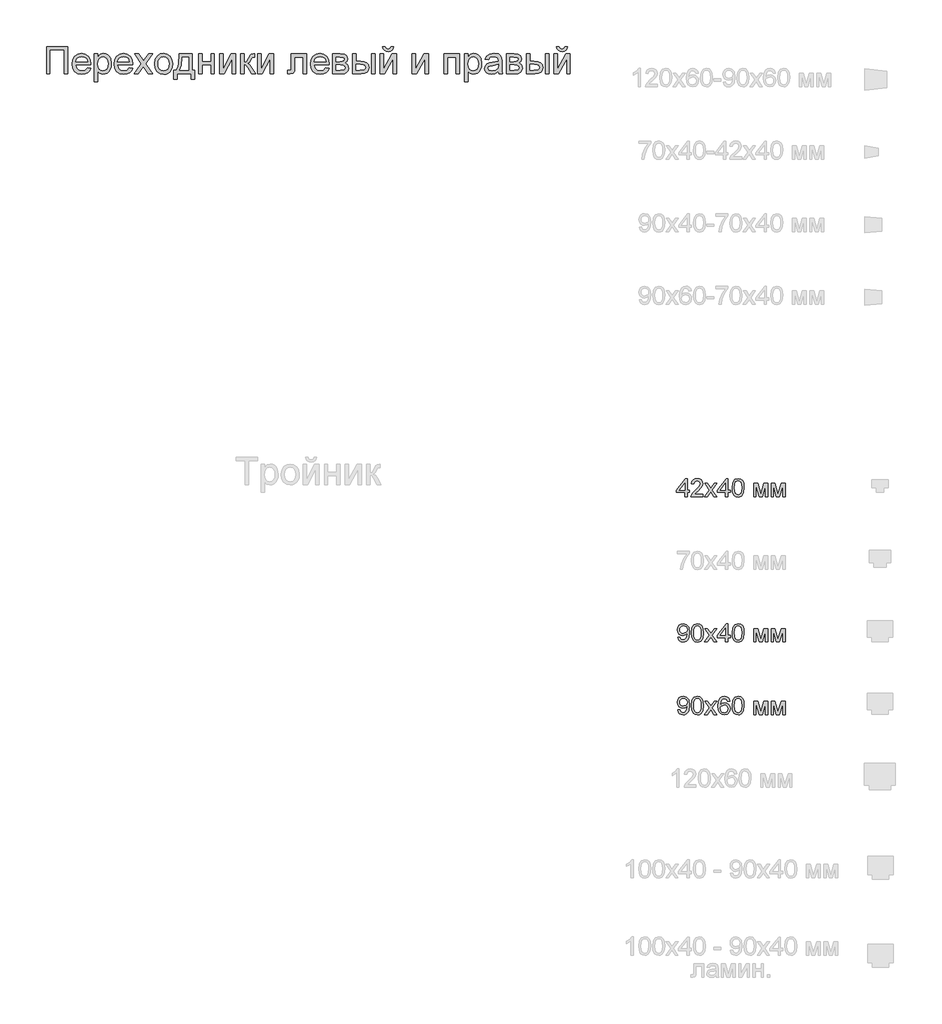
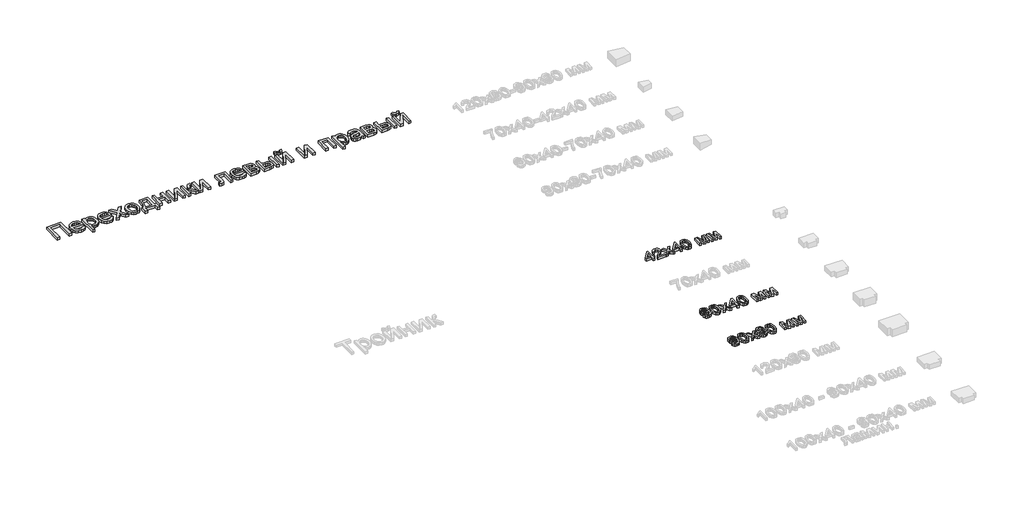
# One storey, part 16 of 21: 4 proxies.
"""IFC4 building model written with IfcOpenShell, lengths in millimetres."""

import ifcopenshell
import ifcopenshell.guid

model = None  # the IFC model being written
_history = None  # IfcOwnerHistory: only IFC2X3 demands one
_inside = {}  # id of a spatial element -> (the spatial element, [elements in it])
_under = {}  # id of a project, library or spatial element -> (it, [spatial elements below it])
_declared = {}  # id of a project -> (the project, [libraries it declares])
_typed = {}  # id of a type object -> (the type object, [elements of that type])
_made_of = {}  # id of a material, layer set ... -> (it, [elements and type objects made of it])


def new_model(schema):
    """Start an empty IFC model of exactly this schema.

    Asked for "IFC4X3", IfcOpenShell would pick the latest addendum, in which some entities
    have other attributes; the version numbers below select the first issue.
    IFC2X3 requires an IfcOwnerHistory on every rooted entity: one is made here for all.
    """
    global model, _history
    if schema == "IFC4X3":
        model = ifcopenshell.file(schema_version=(4, 3, 0, 0))
    else:
        model = ifcopenshell.file(schema=schema)
    _inside.clear()
    _under.clear()
    _declared.clear()
    _typed.clear()
    _made_of.clear()
    _history = None
    if model.schema == "IFC2X3":
        org = make("IfcOrganization", Name="unknown")
        user = make(
            "IfcPersonAndOrganization",
            ThePerson=make("IfcPerson", FamilyName="unknown"),
            TheOrganization=org,
        )
        app = make(
            "IfcApplication",
            ApplicationDeveloper=org,
            Version="unknown",
            ApplicationFullName="unknown",
            ApplicationIdentifier="unknown",
        )
        _history = make(
            "IfcOwnerHistory",
            OwningUser=user,
            OwningApplication=app,
            ChangeAction="ADDED",
            CreationDate=0,
        )
    return model


def make(cls, **values):
    """One entity of the class cls with the attributes given. An attribute that is None is left unset."""
    return model.create_entity(
        cls, **{name: value for name, value in values.items() if value is not None}
    )


def rooted(cls, **values):
    """An entity with a GlobalId (a new one), such as an element, a storey or a relation."""
    return make(cls, GlobalId=ifcopenshell.guid.new(), OwnerHistory=_history, **values)


def si_unit(unit_type, name, prefix=None):
    """IfcSIUnit, for example si_unit("LENGTHUNIT", "METRE", prefix="MILLI")."""
    return make("IfcSIUnit", UnitType=unit_type, Prefix=prefix, Name=name)


def assignment(units):
    """IfcUnitAssignment: the units of a project."""
    return None if units is None else make("IfcUnitAssignment", Units=units)


def point(xyz):
    """IfcCartesianPoint."""
    return None if xyz is None else make("IfcCartesianPoint", Coordinates=xyz)


def direction(xyz):
    """IfcDirection."""
    return None if xyz is None else make("IfcDirection", DirectionRatios=xyz)


def frame(location, z_axis=None, x_axis=None):
    """IfcAxis2Placement3D, a coordinate frame: its origin and axes. An axis left out is left unset."""
    return make(
        "IfcAxis2Placement3D",
        Location=point(location),
        Axis=direction(z_axis),
        RefDirection=direction(x_axis),
    )


def origin():
    """The frame at (0, 0, 0) with its axes left unset."""
    return frame((0.0, 0.0, 0.0))


def origin_with_axes():
    """The frame at (0, 0, 0) with the z axis (0, 0, 1) and the x axis (1, 0, 0) written out."""
    return frame((0.0, 0.0, 0.0), z_axis=(0.0, 0.0, 1.0), x_axis=(1.0, 0.0, 0.0))


def place(relative_to, where):
    """IfcLocalPlacement: puts the frame where relative to a parent placement (None: the world)."""
    return make(
        "IfcLocalPlacement", PlacementRelTo=relative_to, RelativePlacement=where
    )


def context(
    kind, dimensions, precision=None, world=None, true_north=None, identifier=None
):
    """IfcGeometricRepresentationContext, for example the 3D "Model" context."""
    return make(
        "IfcGeometricRepresentationContext",
        ContextIdentifier=identifier,
        ContextType=kind,
        CoordinateSpaceDimension=dimensions,
        Precision=precision,
        WorldCoordinateSystem=world,
        TrueNorth=true_north,
    )


def project(units=None, contexts=None):
    """IfcProject with its units and contexts."""
    return rooted(
        "IfcProject",
        Name="project",
        RepresentationContexts=contexts,
        UnitsInContext=assignment(units),
    )


def spatial(cls, under=None, at=None, **own):
    """A site, building, storey or space (cls), placed at a placement, below another one or the project."""
    s = rooted(cls, ObjectPlacement=at, **own)
    if under is not None:
        _under.setdefault(under.id(), (under, []))[1].append(s)
    return s


def polyline(points):
    """IfcPolyline through the points."""
    return make("IfcPolyline", Points=[point(p) for p in points])


def outline(outer, holes=None, kind="AREA"):
    """IfcArbitraryClosedProfileDef: a profile drawn as a closed curve; with holes, ...WithVoids."""
    if holes is None:
        return make("IfcArbitraryClosedProfileDef", ProfileType=kind, OuterCurve=outer)
    return make(
        "IfcArbitraryProfileDefWithVoids",
        ProfileType=kind,
        OuterCurve=outer,
        InnerCurves=holes,
    )


def extrude(swept, where, along, depth):
    """IfcExtrudedAreaSolid: the profile swept, set in the frame where, extruded along a direction by depth."""
    return make(
        "IfcExtrudedAreaSolid",
        SweptArea=swept,
        Position=where,
        ExtrudedDirection=direction(along),
        Depth=depth,
    )


def shape(context_of_items, identifier, shape_type, items):
    """IfcShapeRepresentation: the items that make up one representation, for example the "Body"."""
    return make(
        "IfcShapeRepresentation",
        ContextOfItems=context_of_items,
        RepresentationIdentifier=identifier,
        RepresentationType=shape_type,
        Items=items,
    )


def made_of(thing, what):
    """Note that an element or type object is made of a material, layer set ...; save() writes the relation."""
    if what is not None:
        _made_of.setdefault(what.id(), (what, []))[1].append(thing)
    return thing


def element(
    cls,
    number,
    at=None,
    inside=None,
    cuts=None,
    type_object=None,
    material=None,
    context=None,
    identifier="Body",
    shape_type=None,
    held_by="IfcProductDefinitionShape",
    body=None,
    shapes=None,
    **own,
):
    """One element of the class cls, such as IfcWall. Its Tag is "e" and its number.

    at: its placement. inside: the storey or other place that contains it. cuts: it is an
    opening in that element (IfcRelVoidsElement). A single representation is given by context,
    identifier, shape_type and body (its items); several are given by shapes. held_by: the class
    of the entity that holds the representations. save() writes the other relations.
    """
    e = rooted(cls, Tag="e%d" % number, ObjectPlacement=at, **own)
    if body is not None:
        shapes = [shape(context, identifier, shape_type, body)]
    if shapes is not None:
        e.Representation = make(held_by, Representations=shapes)
    if inside is not None:
        _inside.setdefault(inside.id(), (inside, []))[1].append(e)
    if cuts is not None:
        rooted(
            "IfcRelVoidsElement", RelatingBuildingElement=cuts, RelatedOpeningElement=e
        )
    if type_object is not None:
        _typed.setdefault(type_object.id(), (type_object, []))[1].append(e)
    return made_of(e, material)


def aggregate(whole, parts):
    """IfcRelAggregates: a whole, such as a stair, and the parts it consists of."""
    return rooted("IfcRelAggregates", RelatingObject=whole, RelatedObjects=parts)


def save(model, path):
    """Write the relations noted so far, then the file.

    IfcRelAggregates (storeys below a building ...), IfcRelContainedInSpatialStructure (elements
    in a storey), IfcRelDefinesByType, IfcRelAssociatesMaterial and IfcRelDeclares: one each for
    every whole, place, type object, material and project.
    """
    for whole, parts in _under.values():
        aggregate(whole, parts)
    for where, things in _inside.values():
        rooted(
            "IfcRelContainedInSpatialStructure",
            RelatedElements=things,
            RelatingStructure=where,
        )
    for kind, things in _typed.values():
        rooted("IfcRelDefinesByType", RelatedObjects=things, RelatingType=kind)
    for what, things in _made_of.values():
        rooted("IfcRelAssociatesMaterial", RelatedObjects=things, RelatingMaterial=what)
    for by, libraries in _declared.values():
        rooted("IfcRelDeclares", RelatingContext=by, RelatedDefinitions=libraries)
    model.write(path)


model = new_model("IFC4")

# Units and contexts
model_context = context("Model", 3, world=origin())
ifc_project = project(units=[si_unit("LENGTHUNIT", "METRE", prefix="MILLI")], contexts=[model_context])

# Site, building, storey
site = spatial("IfcSite", under=ifc_project)
building = spatial("IfcBuilding", under=site)
storey = spatial("IfcBuildingStorey", under=building, Name="Этаж 01", Elevation=0.0)

# Proxies
placement = place(None, origin())
element("IfcBuildingElementProxy", 1, Name="150 мм Arial", ObjectType="150 мм Arial", at=placement, inside=storey, context=model_context, shape_type="SweptSolid", body=[
    extrude(outline(polyline([(19329.8196803, -2314.3954219), (19447.5419188, -2314.3954219), (19447.5419188, -2465.0798871), (19428.7063606, -2465.0798871), (19428.7063606, -2333.23098), (19348.6552385, -2333.23098), (19348.6552385, -2465.0798871), (19329.8196803, -2465.0798871), (19329.8196803, -2314.3954219)])), origin_with_axes(), (0.0, 0.0, 1.0), 20.0),
    extrude(outline(polyline([(19555.625649, -2432.1176603), (19574.0933251, -2434.4721051), (19567.4392595, -2448.3872415), (19556.8212655, -2458.789105), (19542.4784662, -2465.2730251), (19524.649985, -2467.4343319), (19502.5494741, -2463.7049281), (19485.5441289, -2452.5167169), (19474.7008071, -2434.5962653), (19471.0863665, -2410.67014), (19474.7375953, -2385.9392729), (19485.6912817, -2367.4440056), (19502.4667007, -2355.910905), (19523.5831272, -2352.0665382), (19544.0419647, -2355.901708), (19560.3897208, -2367.4072174), (19571.1088824, -2385.8656965), (19574.6819363, -2410.5597754), (19574.5715717, -2415.6365469), (19489.9219246, -2415.6365469), (19493.1822788, -2429.7356244), (19500.7560494, -2440.1006996), (19511.6867432, -2446.4742552), (19525.017867, -2448.5987737), (19543.4855431, -2444.6624363), (19555.625649, -2432.1176603)]), holes=[polyline([(19489.9219246, -2396.8009888), (19555.8463782, -2396.8009888), (19553.2987954, -2386.8497808), (19548.3047973, -2379.7312642), (19537.3235197, -2373.1093883), (19523.5095508, -2370.9020963), (19510.8130234, -2372.6633314), (19500.314591, -2377.9470365), (19493.0167319, -2386.1829947), (19489.9219246, -2396.8009888)])]), origin_with_axes(), (0.0, 0.0, 1.0), 20.0),
    extrude(outline(polyline([(19593.5174945, -2507.4598929), (19593.5174945, -2354.4209829), (19612.3530526, -2354.4209829), (19612.3530526, -2372.8886591), (19625.3760753, -2357.2720684), (19642.9608346, -2352.0665382), (19655.6987487, -2353.887554), (19666.8363761, -2359.3506017), (19675.9046673, -2368.1245873), (19682.4345727, -2379.878417), (19687.6952852, -2408.9043064), (19686.2099617, -2425.0129393), (19681.753991, -2439.4201179), (19674.4699275, -2451.3946769), (19664.5003255, -2460.2054506), (19652.88905, -2465.6271115), (19640.6799663, -2467.4343319), (19624.2908234, -2462.5966836), (19612.3530526, -2450.3646073), (19612.3530526, -2507.4598929), (19593.5174945, -2507.4598929)]), holes=[polyline([(19612.3530526, -2410.6333518), (19614.3901992, -2427.5191354), (19620.5016388, -2439.3281474), (19629.5193462, -2446.2811171), (19640.2752961, -2448.5987737), (19651.2059898, -2446.1983437), (19660.4536235, -2438.9970536), (19666.7582012, -2426.7557802), (19668.8597271, -2409.2354002), (19666.808785, -2392.4415871), (19660.6559586, -2380.4670282), (19651.6520468, -2373.2933293), (19641.0478483, -2370.9020963), (19630.402263, -2373.4450806), (19621.0534618, -2381.0740335), (19614.5281549, -2393.5498316), (19612.3530526, -2410.6333518)])]), origin_with_axes(), (0.0, 0.0, 1.0), 20.0),
    extrude(outline(polyline([(19786.3612364, -2432.1176603), (19804.8289125, -2434.4721051), (19798.1748469, -2448.3872415), (19787.5568528, -2458.789105), (19773.2140536, -2465.2730251), (19755.3855724, -2467.4343319), (19733.2850615, -2463.7049281), (19716.2797163, -2452.5167169), (19705.4363945, -2434.5962653), (19701.8219539, -2410.67014), (19705.4731827, -2385.9392729), (19716.4268691, -2367.4440056), (19733.202288, -2355.910905), (19754.3187146, -2352.0665382), (19774.777552, -2355.901708), (19791.1253082, -2367.4072174), (19801.8444698, -2385.8656965), (19805.4175237, -2410.5597754), (19805.3071591, -2415.6365469), (19720.657512, -2415.6365469), (19723.9178662, -2429.7356244), (19731.4916368, -2440.1006996), (19742.4223306, -2446.4742552), (19755.7534544, -2448.5987737), (19774.2211305, -2444.6624363), (19786.3612364, -2432.1176603)]), holes=[polyline([(19720.657512, -2396.8009888), (19786.5819655, -2396.8009888), (19784.0343827, -2386.8497808), (19779.0403846, -2379.7312642), (19768.0591071, -2373.1093883), (19754.2451382, -2370.9020963), (19741.5486108, -2372.6633314), (19731.0501784, -2377.9470365), (19723.7523193, -2386.1829947), (19720.657512, -2396.8009888)])]), origin_with_axes(), (0.0, 0.0, 1.0), 20.0),
    extrude(outline(polyline([(19812.480858, -2465.0798871), (19852.7271483, -2409.4561294), (19814.8353028, -2354.4209829), (19837.4968337, -2354.4209829), (19855.7805688, -2380.9084866), (19864.3154311, -2393.4164744), (19871.7098592, -2383.189355), (19892.5319802, -2354.4209829), (19915.1935111, -2354.4209829), (19875.3886792, -2409.4561294), (19913.7219831, -2465.0798871), (19891.0604522, -2465.0798871), (19867.9942511, -2431.6394137), (19863.7636081, -2425.5325726), (19835.1423889, -2465.0798871), (19812.480858, -2465.0798871)])), origin_with_axes(), (0.0, 0.0, 1.0), 20.0),
    extrude(outline(polyline([(19925.4942069, -2409.750435), (19929.5685, -2383.0697933), (19941.7913793, -2364.3170086), (19956.8929352, -2355.1291558), (19974.9743353, -2352.0665382), (19994.7617881, -2355.7959419), (20010.5669183, -2366.9841531), (20020.927395, -2384.7482549), (20024.3808872, -2408.2053306), (20022.854177, -2427.2340268), (20018.2740461, -2441.7193804), (20010.7738519, -2452.5673007), (20000.4869516, -2460.6836972), (19988.2686709, -2465.7466732), (19974.9743353, -2467.4343319), (19954.9477592, -2463.7187237), (19939.161023, -2452.5718992), (19928.910911, -2434.4353169), (19925.4942069, -2409.750435)]), holes=[polyline([(19944.3297651, -2409.7136468), (19946.5094659, -2426.7603788), (19953.0485684, -2438.9050831), (19962.8894117, -2446.1753511), (19974.9743353, -2448.5987737), (19987.0040765, -2446.1615555), (19996.8265258, -2438.8499008), (20003.3656283, -2426.5442481), (20005.5453291, -2409.1250356), (20003.3518327, -2392.5749444), (19996.7713435, -2380.5957869), (19986.9350986, -2373.325519), (19974.9743353, -2370.9020963), (19962.8894117, -2373.3163219), (19953.0485684, -2380.5589987), (19946.5094659, -2392.6761119), (19944.3297651, -2409.7136468)])]), origin_with_axes(), (0.0, 0.0, 1.0), 20.0),
    extrude(outline(polyline([(20062.0520035, -2354.4209829), (20132.6853466, -2354.4209829), (20132.6853466, -2446.2443289), (20146.8120152, -2446.2443289), (20146.8120152, -2495.6876691), (20127.9764571, -2495.6876691), (20127.9764571, -2465.0798871), (20050.2797797, -2465.0798871), (20050.2797797, -2495.6876691), (20031.4442215, -2495.6876691), (20031.4442215, -2446.2443289), (20043.2164454, -2446.2443289), (20051.7743003, -2430.7794896), (20057.7661783, -2410.3206521), (20062.0520035, -2354.4209829)]), holes=[polyline([(20078.5331169, -2373.2565411), (20074.118533, -2416.1699758), (20064.4064483, -2446.2443289), (20113.8497885, -2446.2443289), (20113.8497885, -2373.2565411), (20078.5331169, -2373.2565411)])]), origin_with_axes(), (0.0, 0.0, 1.0), 20.0),
    extrude(outline(polyline([(20168.0020181, -2354.4209829), (20186.8375763, -2354.4209829), (20186.8375763, -2396.8009888), (20236.2809165, -2396.8009888), (20236.2809165, -2354.4209829), (20255.1164746, -2354.4209829), (20255.1164746, -2465.0798871), (20236.2809165, -2465.0798871), (20236.2809165, -2415.6365469), (20186.8375763, -2415.6365469), (20186.8375763, -2465.0798871), (20168.0020181, -2465.0798871), (20168.0020181, -2354.4209829)])), origin_with_axes(), (0.0, 0.0, 1.0), 20.0),
    extrude(outline(polyline([(20283.3698118, -2354.4209829), (20302.20537, -2354.4209829), (20302.20537, -2438.8131126), (20348.484925, -2354.4209829), (20372.8387131, -2354.4209829), (20372.8387131, -2465.0798871), (20354.0031549, -2465.0798871), (20354.0031549, -2381.2027922), (20308.0179055, -2465.0798871), (20283.3698118, -2465.0798871), (20283.3698118, -2354.4209829)])), origin_with_axes(), (0.0, 0.0, 1.0), 20.0),
    extrude(outline(polyline([(20401.0920503, -2354.4209829), (20419.9276084, -2354.4209829), (20419.9276084, -2401.5098783), (20432.5459609, -2398.125364), (20442.8834449, -2378.406889), (20451.4734895, -2361.3923467), (20459.0518586, -2355.8557227), (20472.8290394, -2354.4209829), (20476.4342829, -2354.4209829), (20476.4342829, -2373.3669057), (20471.3575114, -2373.2565411), (20462.1604615, -2375.2431039), (20455.6857384, -2387.6407271), (20448.0889752, -2401.0500258), (20437.4387914, -2407.6167194), (20449.3213799, -2414.9467682), (20460.9832391, -2430.3886149), (20481.1431724, -2465.0798871), (20459.7324403, -2465.0798871), (20439.9771772, -2431.1243789), (20430.0443633, -2416.758587), (20419.9276084, -2413.2821022), (20419.9276084, -2465.0798871), (20401.0920503, -2465.0798871), (20401.0920503, -2354.4209829)])), origin_with_axes(), (0.0, 0.0, 1.0), 20.0),
    extrude(outline(polyline([(20492.9153963, -2354.4209829), (20511.7509544, -2354.4209829), (20511.7509544, -2438.8131126), (20558.0305094, -2354.4209829), (20582.3842975, -2354.4209829), (20582.3842975, -2465.0798871), (20563.5487394, -2465.0798871), (20563.5487394, -2381.2027922), (20517.56349, -2465.0798871), (20492.9153963, -2465.0798871), (20492.9153963, -2354.4209829)])), origin_with_axes(), (0.0, 0.0, 1.0), 20.0),
    extrude(outline(polyline([(20678.9165331, -2354.4209829), (20763.6765447, -2354.4209829), (20763.6765447, -2464.9695225), (20744.8409866, -2464.9695225), (20744.8409866, -2373.2565411), (20697.7520912, -2373.2565411), (20697.7520912, -2426.0476074), (20696.4828983, -2450.4013955), (20689.5115345, -2460.6836972), (20673.0304211, -2465.0798871), (20657.7265301, -2464.1233939), (20657.7265301, -2446.2443289), (20666.1510278, -2446.2443289), (20674.667496, -2445.0855006), (20678.0704045, -2441.4066807), (20678.9165331, -2424.9807496), (20678.9165331, -2354.4209829)])), origin_with_axes(), (0.0, 0.0, 1.0), 20.0),
    extrude(outline(polyline([(20869.4058302, -2432.1176603), (20887.8735063, -2434.4721051), (20881.2194407, -2448.3872415), (20870.6014466, -2458.789105), (20856.2586474, -2465.2730251), (20838.4301662, -2467.4343319), (20816.3296553, -2463.7049281), (20799.3243101, -2452.5167169), (20788.4809883, -2434.5962653), (20784.8665477, -2410.67014), (20788.5177765, -2385.9392729), (20799.4714629, -2367.4440056), (20816.2468819, -2355.910905), (20837.3633084, -2352.0665382), (20857.8221458, -2355.901708), (20874.169902, -2367.4072174), (20884.8890636, -2385.8656965), (20888.4621175, -2410.5597754), (20888.3517529, -2415.6365469), (20803.7021058, -2415.6365469), (20806.96246, -2429.7356244), (20814.5362306, -2440.1006996), (20825.4669244, -2446.4742552), (20838.7980482, -2448.5987737), (20857.2657243, -2444.6624363), (20869.4058302, -2432.1176603)]), holes=[polyline([(20803.7021058, -2396.8009888), (20869.6265594, -2396.8009888), (20867.0789765, -2386.8497808), (20862.0849784, -2379.7312642), (20851.1037009, -2373.1093883), (20837.289732, -2370.9020963), (20824.5932046, -2372.6633314), (20814.0947722, -2377.9470365), (20806.7969131, -2386.1829947), (20803.7021058, -2396.8009888)])]), origin_with_axes(), (0.0, 0.0, 1.0), 20.0),
    extrude(outline(polyline([(20907.2976757, -2354.4209829), (20948.7947647, -2354.4209829), (20971.5482661, -2356.9409746), (20984.3505595, -2366.1748127), (20989.7032426, -2382.26965), (20986.465881, -2395.3478549), (20976.7170081, -2404.6736635), (20989.3721488, -2414.8823888), (20994.4121321, -2432.6326951), (20991.2207558, -2446.98929), (20983.6331897, -2457.0968478), (20971.6218425, -2463.0841273), (20955.1591232, -2465.0798871), (20907.2976757, -2465.0798871), (20907.2976757, -2354.4209829)]), holes=[polyline([(20926.1332338, -2396.8009888), (20944.7480628, -2396.8009888), (20960.1071361, -2395.8444956), (20967.5751406, -2392.0185228), (20970.8676844, -2385.1023413), (20969.4237476, -2379.4829439), (20965.0919371, -2375.8685033), (20945.336674, -2373.2565411), (20926.1332338, -2373.2565411), (20926.1332338, -2396.8009888)]), polyline([(20926.1332338, -2446.2443289), (20949.2362231, -2446.2443289), (20969.7272502, -2442.8414205), (20973.9670902, -2438.2015088), (20975.576574, -2431.0875907), (20972.3576065, -2422.0192995), (20963.969897, -2416.7401929), (20947.3968131, -2415.6365469), (20926.1332338, -2415.6365469), (20926.1332338, -2446.2443289)])]), origin_with_axes(), (0.0, 0.0, 1.0), 20.0),
    extrude(outline(polyline([(21121.5521496, -2354.4209829), (21140.3877078, -2354.4209829), (21140.3877078, -2465.0798871), (21121.5521496, -2465.0798871), (21121.5521496, -2354.4209829)])), origin_with_axes(), (0.0, 0.0, 1.0), 20.0),
    extrude(outline(polyline([(21017.9565798, -2354.4209829), (21036.792138, -2354.4209829), (21036.792138, -2394.446544), (21060.0790683, -2394.446544), (21080.2068119, -2396.8055873), (21095.1198283, -2403.8827172), (21104.3490678, -2415.1077166), (21107.425481, -2429.9103683), (21104.8457085, -2443.3886449), (21097.1063911, -2454.7607971), (21083.7016909, -2462.5001146), (21064.1257702, -2465.0798871), (21017.9565798, -2465.0798871), (21017.9565798, -2354.4209829)]), holes=[polyline([(21036.792138, -2446.2443289), (21056.1427309, -2446.2443289), (21081.1219184, -2442.2895975), (21086.7229218, -2437.2266215), (21088.5899229, -2429.9471565), (21083.0532989, -2418.3588737), (21074.1735472, -2414.551295), (21058.6075403, -2413.2821022), (21036.792138, -2413.2821022), (21036.792138, -2446.2443289)])]), origin_with_axes(), (0.0, 0.0, 1.0), 20.0),
    extrude(outline(polyline([(21168.641045, -2354.4209829), (21187.4766032, -2354.4209829), (21187.4766032, -2438.8131126), (21233.7561582, -2354.4209829), (21258.1099463, -2354.4209829), (21258.1099463, -2465.0798871), (21239.2743881, -2465.0798871), (21239.2743881, -2381.2027922), (21193.2891387, -2465.0798871), (21168.641045, -2465.0798871), (21168.641045, -2354.4209829)])), origin_with_axes(), (0.0, 0.0, 1.0), 20.0),
    extrude(outline(polyline([(21229.856609, -2314.3954219), (21243.9832776, -2314.3954219), (21240.9436527, -2326.4573528), (21234.8414101, -2335.3463015), (21225.9524614, -2340.8231447), (21214.552718, -2342.6487591), (21202.1826859, -2340.8369403), (21192.5901629, -2335.4014838), (21186.0326664, -2326.5263306), (21182.7677136, -2314.3954219), (21196.8943823, -2314.3954219), (21202.191883, -2325.0088174), (21212.8604609, -2328.5220905), (21224.5591083, -2325.119182), (21229.856609, -2314.3954219)])), origin_with_axes(), (0.0, 0.0, 1.0), 20.0),
    extrude(outline(polyline([(21345.2244027, -2354.4209829), (21364.0599609, -2354.4209829), (21364.0599609, -2438.8131126), (21410.3395159, -2354.4209829), (21434.6933039, -2354.4209829), (21434.6933039, -2465.0798871), (21415.8577458, -2465.0798871), (21415.8577458, -2381.2027922), (21369.8724964, -2465.0798871), (21345.2244027, -2465.0798871), (21345.2244027, -2354.4209829)])), origin_with_axes(), (0.0, 0.0, 1.0), 20.0),
    extrude(outline(polyline([(21521.8077604, -2354.4209829), (21606.5677721, -2354.4209829), (21606.5677721, -2465.0798871), (21587.7322139, -2465.0798871), (21587.7322139, -2373.2565411), (21540.6433186, -2373.2565411), (21540.6433186, -2465.0798871), (21521.8077604, -2465.0798871), (21521.8077604, -2354.4209829)])), origin_with_axes(), (0.0, 0.0, 1.0), 20.0),
    extrude(outline(polyline([(21634.8211093, -2507.4598929), (21634.8211093, -2354.4209829), (21653.6566675, -2354.4209829), (21653.6566675, -2372.8886591), (21666.6796901, -2357.2720684), (21684.2644495, -2352.0665382), (21697.0023636, -2353.887554), (21708.139991, -2359.3506017), (21717.2082821, -2368.1245873), (21723.7381876, -2379.878417), (21728.9989001, -2408.9043064), (21727.5135765, -2425.0129393), (21723.0576059, -2439.4201179), (21715.7735424, -2451.3946769), (21705.8039403, -2460.2054506), (21694.1926648, -2465.6271115), (21681.9835811, -2467.4343319), (21665.5944382, -2462.5966836), (21653.6566675, -2450.3646073), (21653.6566675, -2507.4598929), (21634.8211093, -2507.4598929)]), holes=[polyline([(21653.6566675, -2410.6333518), (21655.693814, -2427.5191354), (21661.8052537, -2439.3281474), (21670.8229611, -2446.2811171), (21681.5789109, -2448.5987737), (21692.5096047, -2446.1983437), (21701.7572383, -2438.9970536), (21708.061816, -2426.7557802), (21710.1633419, -2409.2354002), (21708.1123998, -2392.4415871), (21701.9595734, -2380.4670282), (21692.9556616, -2373.2933293), (21682.3514631, -2370.9020963), (21671.7058779, -2373.4450806), (21662.3570767, -2381.0740335), (21655.8317698, -2393.5498316), (21653.6566675, -2410.6333518)])]), origin_with_axes(), (0.0, 0.0, 1.0), 20.0),
    extrude(outline(polyline([(21820.8222461, -2450.9532185), (21802.556905, -2463.7187237), (21782.3785776, -2467.4343319), (21766.6378267, -2465.1994487), (21755.0265512, -2458.4947994), (21747.8666479, -2448.3136652), (21745.4800135, -2435.6493275), (21749.085257, -2420.7501067), (21758.5582184, -2409.934376), (21771.7467879, -2403.7539585), (21788.0439603, -2400.9212671), (21820.7118815, -2394.446544), (21820.8222461, -2390.2526893), (21819.525462, -2381.8465857), (21815.6351099, -2376.3467498), (21806.9347008, -2372.2632597), (21794.812989, -2370.9020963), (21775.7567017, -2374.525734), (21766.6700164, -2387.3832097), (21747.8344582, -2385.0287649), (21755.9830444, -2366.6346652), (21772.3905814, -2355.8557227), (21797.2410102, -2352.0665382), (21820.068088, -2355.4142643), (21832.9623519, -2363.8203679), (21838.7380992, -2376.6042672), (21839.6578042, -2393.0853806), (21839.6578042, -2416.5194637), (21840.6142974, -2449.2425672), (21844.3666938, -2465.0798871), (21825.5311356, -2465.0798871), (21820.8222461, -2450.9532185)]), holes=[polyline([(21820.8222461, -2413.2821022), (21790.4351933, -2419.0578495), (21774.2299914, -2422.11127), (21766.8907456, -2427.077677), (21764.3155716, -2434.3249523), (21769.925772, -2444.5152836), (21786.3884913, -2448.5987737), (21805.4447787, -2444.0922193), (21817.7320373, -2433.1845181), (21820.7118815, -2418.6163911), (21820.8222461, -2413.2821022)])]), origin_with_axes(), (0.0, 0.0, 1.0), 20.0),
    extrude(outline(polyline([(21865.5566967, -2354.4209829), (21907.0537857, -2354.4209829), (21929.8072872, -2356.9409746), (21942.6095806, -2366.1748127), (21947.9622636, -2382.26965), (21944.7249021, -2395.3478549), (21934.9760292, -2404.6736635), (21947.6311698, -2414.8823888), (21952.6711532, -2432.6326951), (21949.4797768, -2446.98929), (21941.8922107, -2457.0968478), (21929.8808635, -2463.0841273), (21913.4181443, -2465.0798871), (21865.5566967, -2465.0798871), (21865.5566967, -2354.4209829)]), holes=[polyline([(21884.3922548, -2396.8009888), (21903.0070838, -2396.8009888), (21918.3661571, -2395.8444956), (21925.8341616, -2392.0185228), (21929.1267055, -2385.1023413), (21927.6827686, -2379.4829439), (21923.3509581, -2375.8685033), (21903.595695, -2373.2565411), (21884.3922548, -2373.2565411), (21884.3922548, -2396.8009888)]), polyline([(21884.3922548, -2446.2443289), (21907.4952441, -2446.2443289), (21927.9862713, -2442.8414205), (21932.2261113, -2438.2015088), (21933.835595, -2431.0875907), (21930.6166275, -2422.0192995), (21922.228918, -2416.7401929), (21905.6558342, -2415.6365469), (21884.3922548, -2415.6365469), (21884.3922548, -2446.2443289)])]), origin_with_axes(), (0.0, 0.0, 1.0), 20.0),
    extrude(outline(polyline([(22079.8111707, -2354.4209829), (22098.6467288, -2354.4209829), (22098.6467288, -2465.0798871), (22079.8111707, -2465.0798871), (22079.8111707, -2354.4209829)])), origin_with_axes(), (0.0, 0.0, 1.0), 20.0),
    extrude(outline(polyline([(21976.2156008, -2354.4209829), (21995.051159, -2354.4209829), (21995.051159, -2394.446544), (22018.3380893, -2394.446544), (22038.465833, -2396.8055873), (22053.3788493, -2403.8827172), (22062.6080889, -2415.1077166), (22065.6845021, -2429.9103683), (22063.1047296, -2443.3886449), (22055.3654121, -2454.7607971), (22041.9607119, -2462.5001146), (22022.3847912, -2465.0798871), (21976.2156008, -2465.0798871), (21976.2156008, -2354.4209829)]), holes=[polyline([(21995.051159, -2446.2443289), (22014.4017519, -2446.2443289), (22039.3809394, -2442.2895975), (22044.9819428, -2437.2266215), (22046.8489439, -2429.9471565), (22041.3123199, -2418.3588737), (22032.4325682, -2414.551295), (22016.8665613, -2413.2821022), (21995.051159, -2413.2821022), (21995.051159, -2446.2443289)])]), origin_with_axes(), (0.0, 0.0, 1.0), 20.0),
    extrude(outline(polyline([(22126.9000661, -2354.4209829), (22145.7356242, -2354.4209829), (22145.7356242, -2438.8131126), (22192.0151792, -2354.4209829), (22216.3689673, -2354.4209829), (22216.3689673, -2465.0798871), (22197.5334091, -2465.0798871), (22197.5334091, -2381.2027922), (22151.5481597, -2465.0798871), (22126.9000661, -2465.0798871), (22126.9000661, -2354.4209829)])), origin_with_axes(), (0.0, 0.0, 1.0), 20.0),
    extrude(outline(polyline([(22188.1156301, -2314.3954219), (22202.2422987, -2314.3954219), (22199.2026737, -2326.4573528), (22193.1004311, -2335.3463015), (22184.2114824, -2340.8231447), (22172.8117391, -2342.6487591), (22160.441707, -2340.8369403), (22150.849184, -2335.4014838), (22144.2916874, -2326.5263306), (22141.0267347, -2314.3954219), (22155.1534033, -2314.3954219), (22160.450904, -2325.0088174), (22171.1194819, -2328.5220905), (22182.8181293, -2325.119182), (22188.1156301, -2314.3954219)])), origin_with_axes(), (0.0, 0.0, 1.0), 20.0),
])
element("IfcBuildingElementProxy", 2, Name="100 мм Arial", ObjectType="100 мм Arial", at=placement, inside=storey, context=model_context, shape_type="SweptSolid", body=[
    extrude(outline(polyline([(22848.9189054, -4794.8846335), (22848.9189054, -4771.3401858), (22803.3996398, -4771.3401858), (22803.3996398, -4758.7831471), (22852.0581651, -4695.9979532), (22861.4759442, -4695.9979532), (22861.4759442, -4758.7831471), (22874.0329829, -4758.7831471), (22874.0329829, -4771.3401858), (22861.4759442, -4771.3401858), (22861.4759442, -4794.8846335), (22848.9189054, -4794.8846335)]), holes=[polyline([(22848.9189054, -4758.7831471), (22848.9189054, -4719.9838593), (22818.8506836, -4758.7831471), (22848.9189054, -4758.7831471)])]), origin_with_axes(), (0.0, 0.0, 1.0), 20.0),
    extrude(outline(polyline([(22949.3752155, -4782.3275947), (22949.3752155, -4794.8846335), (22883.450762, -4794.8846335), (22884.7996626, -4786.2271439), (22892.4270827, -4772.8975529), (22908.1479066, -4758.3416887), (22929.8284189, -4737.4214659), (22935.2485469, -4723.1966954), (22930.1349872, -4711.6819889), (22916.7808708, -4706.9853621), (22902.8626686, -4711.5716243), (22897.5774306, -4724.2512904), (22885.0203918, -4722.6816606), (22888.0646154, -4710.5354234), (22894.6466374, -4701.6633359), (22904.4231014, -4696.2370765), (22917.0506509, -4694.4283234), (22929.7701709, -4696.4394116), (22939.5282408, -4702.4726763), (22945.7362495, -4711.4857852), (22947.8055857, -4722.4364059), (22945.5737682, -4734.3435198), (22938.1548147, -4746.6553039), (22920.1653851, -4763.8599186), (22905.7198854, -4775.9387108), (22900.0545027, -4782.3275947), (22949.3752155, -4782.3275947)])), origin_with_axes(), (0.0, 0.0, 1.0), 20.0),
    extrude(outline(polyline([(22957.2233648, -4794.8846335), (22984.0542249, -4757.8021284), (22958.7929946, -4721.1120307), (22973.9006819, -4721.1120307), (22986.0898386, -4738.7703665), (22991.7797468, -4747.1090251), (22996.7093656, -4740.2909454), (23010.5907795, -4721.1120307), (23025.6984668, -4721.1120307), (22999.1619122, -4757.8021284), (23024.7174481, -4794.8846335), (23009.6097609, -4794.8846335), (22994.2322935, -4772.5909846), (22991.4118648, -4768.5197572), (22972.331052, -4794.8846335), (22957.2233648, -4794.8846335)])), origin_with_axes(), (0.0, 0.0, 1.0), 20.0),
    extrude(outline(polyline([(23073.3759734, -4794.8846335), (23073.3759734, -4771.3401858), (23027.8567078, -4771.3401858), (23027.8567078, -4758.7831471), (23076.5152331, -4695.9979532), (23085.9330121, -4695.9979532), (23085.9330121, -4758.7831471), (23098.4900509, -4758.7831471), (23098.4900509, -4771.3401858), (23085.9330121, -4771.3401858), (23085.9330121, -4794.8846335), (23073.3759734, -4794.8846335)]), holes=[polyline([(23073.3759734, -4758.7831471), (23073.3759734, -4719.9838593), (23043.3077516, -4758.7831471), (23073.3759734, -4758.7831471)])]), origin_with_axes(), (0.0, 0.0, 1.0), 20.0),
    extrude(outline(polyline([(23109.4774598, -4745.4658188), (23113.1685425, -4716.5625567), (23124.131426, -4699.8975024), (23142.4396866, -4694.4283234), (23157.1059155, -4697.6656849), (23167.2349331, -4706.9976249), (23173.121045, -4721.8600575), (23175.4019134, -4745.4658188), (23171.7476189, -4774.2464536), (23160.8215236, -4790.9482962), (23152.590164, -4795.0777716), (23142.4396866, -4796.4542634), (23129.3921385, -4794.0630304), (23119.4838501, -4786.8893315), (23111.9790574, -4769.8993147), (23109.4774598, -4745.4658188)]), holes=[polyline([(23122.0344986, -4745.4412934), (23123.5060266, -4765.1934908), (23127.9206105, -4776.6254238), (23134.4934355, -4782.0792744), (23142.4396866, -4783.8972246), (23150.3859377, -4782.073143), (23156.9587627, -4776.6008984), (23161.3733466, -4765.162834), (23162.8448746, -4745.4412934), (23161.4223976, -4726.13362), (23157.1549664, -4714.6127822), (23150.5944042, -4708.8922171), (23142.2925338, -4706.9853621), (23134.4321218, -4708.6653566), (23128.1168143, -4713.7053399), (23123.5550775, -4725.9435476), (23122.0344986, -4745.4412934)])]), origin_with_axes(), (0.0, 0.0, 1.0), 20.0),
    extrude(outline(polyline([(23228.7693281, -4721.1120307), (23250.376264, -4721.1120307), (23267.0290556, -4780.1693537), (23284.981697, -4721.1120307), (23305.6811906, -4721.1120307), (23305.6811906, -4794.8846335), (23293.1241518, -4794.8846335), (23293.1241518, -4735.483954), (23275.0734086, -4794.8846335), (23258.5922952, -4794.8846335), (23241.3263669, -4732.6389999), (23241.3263669, -4794.8846335), (23228.7693281, -4794.8846335), (23228.7693281, -4721.1120307)])), origin_with_axes(), (0.0, 0.0, 1.0), 20.0),
    extrude(outline(polyline([(23324.5167487, -4721.1120307), (23346.1236846, -4721.1120307), (23362.7764762, -4780.1693537), (23380.7291176, -4721.1120307), (23401.4286112, -4721.1120307), (23401.4286112, -4794.8846335), (23388.8715724, -4794.8846335), (23388.8715724, -4735.483954), (23370.8208292, -4794.8846335), (23354.3397158, -4794.8846335), (23337.0737875, -4732.6389999), (23337.0737875, -4794.8846335), (23324.5167487, -4794.8846335), (23324.5167487, -4721.1120307)])), origin_with_axes(), (0.0, 0.0, 1.0), 20.0),
])
element("IfcBuildingElementProxy", 3, Name="100 мм Arial", ObjectType="100 мм Arial", at=placement, inside=storey, context=model_context, shape_type="SweptSolid", body=[
    extrude(outline(polyline([(22809.6781592, -5569.770556), (22822.235198, -5568.2009261), (22827.8760553, -5580.1816164), (22838.5691586, -5583.8972246), (22848.7349644, -5581.5059916), (22855.6266204, -5575.1171076), (22859.734636, -5564.2032751), (22861.5495205, -5549.6351481), (22861.4759442, -5547.1826015), (22851.4327657, -5556.6984824), (22837.6617163, -5560.3527769), (22826.2113892, -5558.1209595), (22816.6801799, -5551.4255071), (22810.251442, -5541.0818917), (22808.1085294, -5527.9055849), (22810.3556752, -5514.2939511), (22817.0971128, -5503.6253732), (22827.2230647, -5496.7275858), (22839.6237536, -5494.4283234), (22857.5150813, -5499.6767732), (22869.8268654, -5514.6373076), (22874.0329829, -5542.7434921), (22869.8391282, -5573.2409095), (22864.6244009, -5583.2319713), (22857.3679285, -5590.5191005), (22848.3824108, -5594.9704726), (22837.9805474, -5596.4542634), (22827.2445245, -5594.7037582), (22818.6790054, -5589.4522427), (22812.6886602, -5581.0308107), (22809.6781592, -5569.770556)]), holes=[polyline([(22861.4759442, -5527.6112793), (22860.1209121, -5519.1009425), (22856.0558161, -5512.552643), (22849.7466399, -5508.3771823), (22841.6593673, -5506.9853621), (22833.2716579, -5508.4844813), (22826.5516801, -5512.9818387), (22822.1370961, -5519.8642976), (22820.6655682, -5528.5187216), (22822.0573884, -5536.277966), (22826.232849, -5542.4369237), (22832.7872799, -5546.4560345), (22841.3160108, -5547.7957381), (22855.7982987, -5542.4369237), (22860.0565328, -5536.0511054), (22861.4759442, -5527.6112793)])]), origin_with_axes(), (0.0, 0.0, 1.0), 20.0),
    extrude(outline(polyline([(22885.0203918, -5545.4658188), (22888.7114745, -5516.5625567), (22899.674358, -5499.8975024), (22917.9826186, -5494.4283234), (22932.6488475, -5497.6656849), (22942.7778651, -5506.9976249), (22948.663977, -5521.8600575), (22950.9448454, -5545.4658188), (22947.2905509, -5574.2464536), (22936.3644556, -5590.9482962), (22928.133096, -5595.0777716), (22917.9826186, -5596.4542634), (22904.9350705, -5594.0630304), (22895.0267821, -5586.8893315), (22887.5219894, -5569.8993147), (22885.0203918, -5545.4658188)]), holes=[polyline([(22897.5774306, -5545.4412934), (22899.0489586, -5565.1934908), (22903.4635425, -5576.6254238), (22910.0363675, -5582.0792744), (22917.9826186, -5583.8972246), (22925.9288697, -5582.073143), (22932.5016947, -5576.6008984), (22936.9162786, -5565.162834), (22938.3878066, -5545.4412934), (22936.9653296, -5526.13362), (22932.6978984, -5514.6127822), (22926.1373362, -5508.8922171), (22917.8354658, -5506.9853621), (22909.9750538, -5508.6653566), (22903.6597463, -5513.7053399), (22899.0980095, -5525.9435476), (22897.5774306, -5545.4412934)])]), origin_with_axes(), (0.0, 0.0, 1.0), 20.0),
    extrude(outline(polyline([(22957.2233648, -5594.8846335), (22984.0542249, -5557.8021284), (22958.7929946, -5521.1120307), (22973.9006819, -5521.1120307), (22986.0898386, -5538.7703665), (22991.7797468, -5547.1090251), (22996.7093656, -5540.2909454), (23010.5907795, -5521.1120307), (23025.6984668, -5521.1120307), (22999.1619122, -5557.8021284), (23024.7174481, -5594.8846335), (23009.6097609, -5594.8846335), (22994.2322935, -5572.5909846), (22991.4118648, -5568.5197572), (22972.331052, -5594.8846335), (22957.2233648, -5594.8846335)])), origin_with_axes(), (0.0, 0.0, 1.0), 20.0),
    extrude(outline(polyline([(23073.3759734, -5594.8846335), (23073.3759734, -5571.3401858), (23027.8567078, -5571.3401858), (23027.8567078, -5558.7831471), (23076.5152331, -5495.9979532), (23085.9330121, -5495.9979532), (23085.9330121, -5558.7831471), (23098.4900509, -5558.7831471), (23098.4900509, -5571.3401858), (23085.9330121, -5571.3401858), (23085.9330121, -5594.8846335), (23073.3759734, -5594.8846335)]), holes=[polyline([(23073.3759734, -5558.7831471), (23073.3759734, -5519.9838593), (23043.3077516, -5558.7831471), (23073.3759734, -5558.7831471)])]), origin_with_axes(), (0.0, 0.0, 1.0), 20.0),
    extrude(outline(polyline([(23109.4774598, -5545.4658188), (23113.1685425, -5516.5625567), (23124.131426, -5499.8975024), (23142.4396866, -5494.4283234), (23157.1059155, -5497.6656849), (23167.2349331, -5506.9976249), (23173.121045, -5521.8600575), (23175.4019134, -5545.4658188), (23171.7476189, -5574.2464536), (23160.8215236, -5590.9482962), (23152.590164, -5595.0777716), (23142.4396866, -5596.4542634), (23129.3921385, -5594.0630304), (23119.4838501, -5586.8893315), (23111.9790574, -5569.8993147), (23109.4774598, -5545.4658188)]), holes=[polyline([(23122.0344986, -5545.4412934), (23123.5060266, -5565.1934908), (23127.9206105, -5576.6254238), (23134.4934355, -5582.0792744), (23142.4396866, -5583.8972246), (23150.3859377, -5582.073143), (23156.9587627, -5576.6008984), (23161.3733466, -5565.162834), (23162.8448746, -5545.4412934), (23161.4223976, -5526.13362), (23157.1549664, -5514.6127822), (23150.5944042, -5508.8922171), (23142.2925338, -5506.9853621), (23134.4321218, -5508.6653566), (23128.1168143, -5513.7053399), (23123.5550775, -5525.9435476), (23122.0344986, -5545.4412934)])]), origin_with_axes(), (0.0, 0.0, 1.0), 20.0),
    extrude(outline(polyline([(23228.7693281, -5521.1120307), (23250.376264, -5521.1120307), (23267.0290556, -5580.1693537), (23284.981697, -5521.1120307), (23305.6811906, -5521.1120307), (23305.6811906, -5594.8846335), (23293.1241518, -5594.8846335), (23293.1241518, -5535.483954), (23275.0734086, -5594.8846335), (23258.5922952, -5594.8846335), (23241.3263669, -5532.6389999), (23241.3263669, -5594.8846335), (23228.7693281, -5594.8846335), (23228.7693281, -5521.1120307)])), origin_with_axes(), (0.0, 0.0, 1.0), 20.0),
    extrude(outline(polyline([(23324.5167487, -5521.1120307), (23346.1236846, -5521.1120307), (23362.7764762, -5580.1693537), (23380.7291176, -5521.1120307), (23401.4286112, -5521.1120307), (23401.4286112, -5594.8846335), (23388.8715724, -5594.8846335), (23388.8715724, -5535.483954), (23370.8208292, -5594.8846335), (23354.3397158, -5594.8846335), (23337.0737875, -5532.6389999), (23337.0737875, -5594.8846335), (23324.5167487, -5594.8846335), (23324.5167487, -5521.1120307)])), origin_with_axes(), (0.0, 0.0, 1.0), 20.0),
])
element("IfcBuildingElementProxy", 4, Name="100 мм Arial", ObjectType="100 мм Arial", at=placement, inside=storey, context=model_context, shape_type="SweptSolid", body=[
    extrude(outline(polyline([(22809.6781592, -5969.770556), (22822.235198, -5968.2009261), (22827.8760553, -5980.1816164), (22838.5691586, -5983.8972246), (22848.7349644, -5981.5059916), (22855.6266204, -5975.1171076), (22859.734636, -5964.2032751), (22861.5495205, -5949.6351481), (22861.4759442, -5947.1826015), (22851.4327657, -5956.6984824), (22837.6617163, -5960.3527769), (22826.2113892, -5958.1209595), (22816.6801799, -5951.4255071), (22810.251442, -5941.0818917), (22808.1085294, -5927.9055849), (22810.3556752, -5914.2939511), (22817.0971128, -5903.6253732), (22827.2230647, -5896.7275858), (22839.6237536, -5894.4283234), (22857.5150813, -5899.6767732), (22869.8268654, -5914.6373076), (22874.0329829, -5942.7434921), (22869.8391282, -5973.2409095), (22864.6244009, -5983.2319713), (22857.3679285, -5990.5191005), (22848.3824108, -5994.9704726), (22837.9805474, -5996.4542634), (22827.2445245, -5994.7037582), (22818.6790054, -5989.4522427), (22812.6886602, -5981.0308107), (22809.6781592, -5969.770556)]), holes=[polyline([(22861.4759442, -5927.6112793), (22860.1209121, -5919.1009425), (22856.0558161, -5912.552643), (22849.7466399, -5908.3771823), (22841.6593673, -5906.9853621), (22833.2716579, -5908.4844813), (22826.5516801, -5912.9818387), (22822.1370961, -5919.8642976), (22820.6655682, -5928.5187216), (22822.0573884, -5936.277966), (22826.232849, -5942.4369237), (22832.7872799, -5946.4560345), (22841.3160108, -5947.7957381), (22855.7982987, -5942.4369237), (22860.0565328, -5936.0511054), (22861.4759442, -5927.6112793)])]), origin_with_axes(), (0.0, 0.0, 1.0), 20.0),
    extrude(outline(polyline([(22885.0203918, -5945.4658188), (22888.7114745, -5916.5625567), (22899.674358, -5899.8975024), (22917.9826186, -5894.4283234), (22932.6488475, -5897.6656849), (22942.7778651, -5906.9976249), (22948.663977, -5921.8600575), (22950.9448454, -5945.4658188), (22947.2905509, -5974.2464536), (22936.3644556, -5990.9482962), (22928.133096, -5995.0777716), (22917.9826186, -5996.4542634), (22904.9350705, -5994.0630304), (22895.0267821, -5986.8893315), (22887.5219894, -5969.8993147), (22885.0203918, -5945.4658188)]), holes=[polyline([(22897.5774306, -5945.4412934), (22899.0489586, -5965.1934908), (22903.4635425, -5976.6254238), (22910.0363675, -5982.0792744), (22917.9826186, -5983.8972246), (22925.9288697, -5982.073143), (22932.5016947, -5976.6008984), (22936.9162786, -5965.162834), (22938.3878066, -5945.4412934), (22936.9653296, -5926.13362), (22932.6978984, -5914.6127822), (22926.1373362, -5908.8922171), (22917.8354658, -5906.9853621), (22909.9750538, -5908.6653566), (22903.6597463, -5913.7053399), (22899.0980095, -5925.9435476), (22897.5774306, -5945.4412934)])]), origin_with_axes(), (0.0, 0.0, 1.0), 20.0),
    extrude(outline(polyline([(22957.2233648, -5994.8846335), (22984.0542249, -5957.8021284), (22958.7929946, -5921.1120307), (22973.9006819, -5921.1120307), (22986.0898386, -5938.7703665), (22991.7797468, -5947.1090251), (22996.7093656, -5940.2909454), (23010.5907795, -5921.1120307), (23025.6984668, -5921.1120307), (22999.1619122, -5957.8021284), (23024.7174481, -5994.8846335), (23009.6097609, -5994.8846335), (22994.2322935, -5972.5909846), (22991.4118648, -5968.5197572), (22972.331052, -5994.8846335), (22957.2233648, -5994.8846335)])), origin_with_axes(), (0.0, 0.0, 1.0), 20.0),
    extrude(outline(polyline([(23096.9204211, -5921.1120307), (23084.3633823, -5922.6816606), (23079.6054418, -5912.2092865), (23067.0238776, -5906.9853621), (23055.6931121, -5910.02652), (23047.1214616, -5921.4431245), (23043.5530063, -5943.8226126), (23054.6262544, -5933.8039596), (23068.3482528, -5930.5298098), (23079.9487984, -5932.7677586), (23089.6854085, -5939.481605), (23096.2888903, -5949.7393813), (23098.4900509, -5962.6091198), (23094.3452471, -5979.9363618), (23082.9409052, -5992.1990949), (23066.4843173, -5996.4542634), (23052.2380871, -5993.6338347), (23040.8919932, -5985.1725488), (23033.4699739, -5970.2365398), (23030.9959675, -5947.9919419), (23033.7428198, -5922.9820976), (23041.9833765, -5905.8817161), (23053.2344341, -5897.2916716), (23067.8086925, -5894.4283234), (23078.8267583, -5896.2002883), (23087.6497948, -5901.5161831), (23093.8302123, -5909.9590749), (23096.9204211, -5921.1120307)]), holes=[polyline([(23043.5530063, -5962.4129161), (23046.4592741, -5973.2899604), (23054.184796, -5981.1871606), (23065.5032987, -5983.8972246), (23073.7898406, -5982.4931416), (23080.3044176, -5978.2808928), (23084.5258635, -5971.6590169), (23085.9330121, -5963.0260527), (23084.5442576, -5954.7395108), (23080.377994, -5948.4211375), (23073.7530524, -5944.4204208), (23064.9882639, -5943.0868486), (23049.7947375, -5948.4211375), (23045.1134391, -5954.5862266), (23043.5530063, -5962.4129161)])]), origin_with_axes(), (0.0, 0.0, 1.0), 20.0),
    extrude(outline(polyline([(23109.4774598, -5945.4658188), (23113.1685425, -5916.5625567), (23124.131426, -5899.8975024), (23142.4396866, -5894.4283234), (23157.1059155, -5897.6656849), (23167.2349331, -5906.9976249), (23173.121045, -5921.8600575), (23175.4019134, -5945.4658188), (23171.7476189, -5974.2464536), (23160.8215236, -5990.9482962), (23152.590164, -5995.0777716), (23142.4396866, -5996.4542634), (23129.3921385, -5994.0630304), (23119.4838501, -5986.8893315), (23111.9790574, -5969.8993147), (23109.4774598, -5945.4658188)]), holes=[polyline([(23122.0344986, -5945.4412934), (23123.5060266, -5965.1934908), (23127.9206105, -5976.6254238), (23134.4934355, -5982.0792744), (23142.4396866, -5983.8972246), (23150.3859377, -5982.073143), (23156.9587627, -5976.6008984), (23161.3733466, -5965.162834), (23162.8448746, -5945.4412934), (23161.4223976, -5926.13362), (23157.1549664, -5914.6127822), (23150.5944042, -5908.8922171), (23142.2925338, -5906.9853621), (23134.4321218, -5908.6653566), (23128.1168143, -5913.7053399), (23123.5550775, -5925.9435476), (23122.0344986, -5945.4412934)])]), origin_with_axes(), (0.0, 0.0, 1.0), 20.0),
    extrude(outline(polyline([(23228.7693281, -5921.1120307), (23250.376264, -5921.1120307), (23267.0290556, -5980.1693537), (23284.981697, -5921.1120307), (23305.6811906, -5921.1120307), (23305.6811906, -5994.8846335), (23293.1241518, -5994.8846335), (23293.1241518, -5935.483954), (23275.0734086, -5994.8846335), (23258.5922952, -5994.8846335), (23241.3263669, -5932.6389999), (23241.3263669, -5994.8846335), (23228.7693281, -5994.8846335), (23228.7693281, -5921.1120307)])), origin_with_axes(), (0.0, 0.0, 1.0), 20.0),
    extrude(outline(polyline([(23324.5167487, -5921.1120307), (23346.1236846, -5921.1120307), (23362.7764762, -5980.1693537), (23380.7291176, -5921.1120307), (23401.4286112, -5921.1120307), (23401.4286112, -5994.8846335), (23388.8715724, -5994.8846335), (23388.8715724, -5935.483954), (23370.8208292, -5994.8846335), (23354.3397158, -5994.8846335), (23337.0737875, -5932.6389999), (23337.0737875, -5994.8846335), (23324.5167487, -5994.8846335), (23324.5167487, -5921.1120307)])), origin_with_axes(), (0.0, 0.0, 1.0), 20.0),
])

save(model, "model.ifc")
